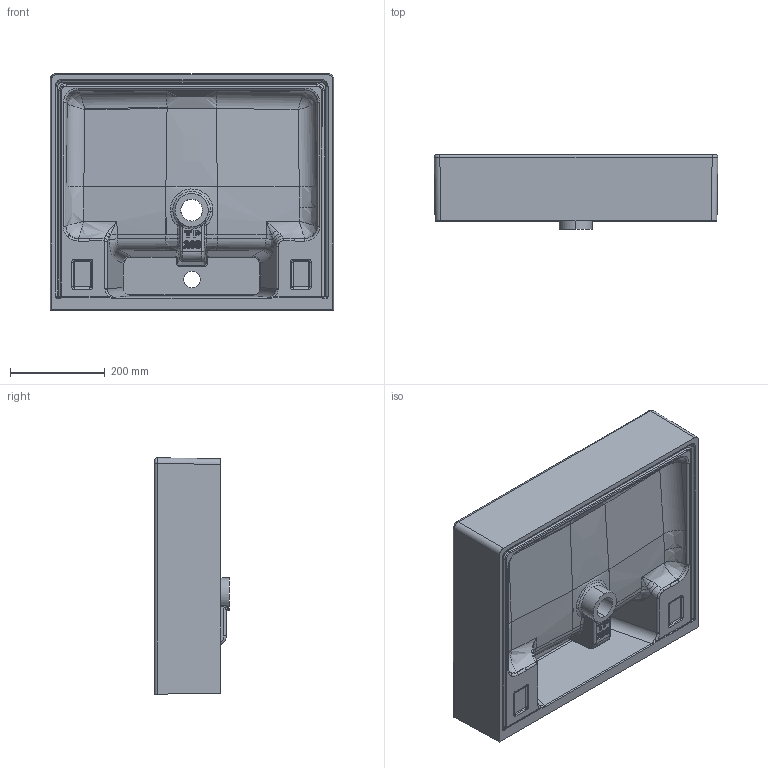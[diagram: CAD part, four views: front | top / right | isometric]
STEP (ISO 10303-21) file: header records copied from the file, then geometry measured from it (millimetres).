
FILE_DESCRIPTION (( 'STEP AP203' ), '1' );
FILE_NAME ('NX260.STEP', '2018-01-23T10:28:40', ( '' ), ( '' ), 'SwSTEP 2.0', 'SolidWorks 2016', '' );
FILE_SCHEMA (( 'CONFIG_CONTROL_DESIGN' ));
Length unit declared in the file: millimetre
Products named in the file (1): NX260
Bounding box: 599.83 x 158 x 499.91 mm (x, y, z)
Volume: 14840905.9 mm3; surface area: 1154812.6 mm2
Topology: 2 solids, 2 shells, 512 faces, 1244 edges, 726 vertices
Faces by surface type: bspline 280, cylinder 160, plane 72
Entity records: 38902 total; most frequent: CARTESIAN_POINT 28985, ORIENTED_EDGE 2444, DIRECTION 1522, EDGE_CURVE 1222, VERTEX_POINT 726, AXIS2_PLACEMENT_3D 590, EDGE_LOOP 530, ADVANCED_FACE 512
